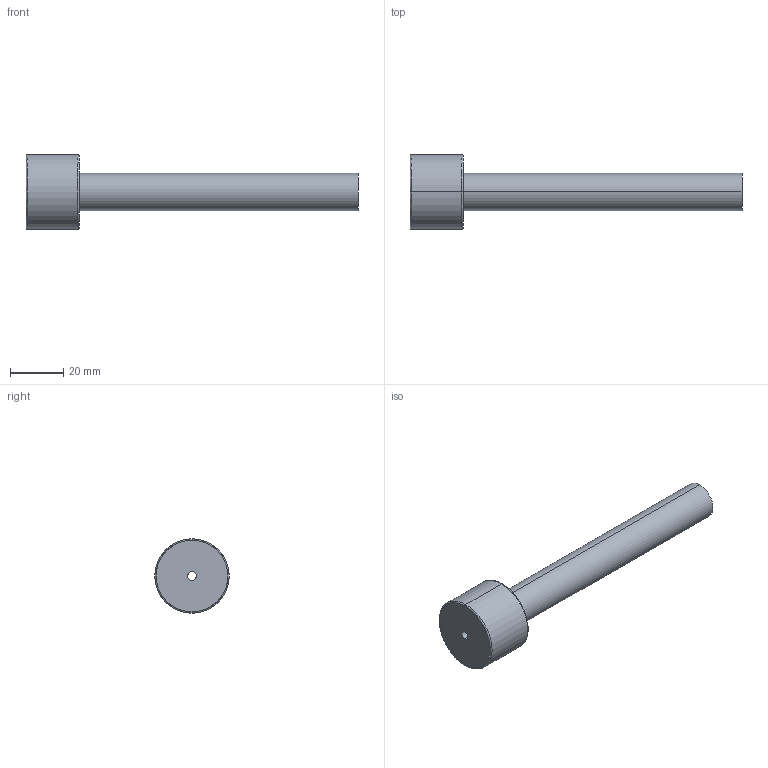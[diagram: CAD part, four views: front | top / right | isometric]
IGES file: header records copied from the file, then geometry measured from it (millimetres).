
Start section: START RECORD GO HERE.
Global section: file name: 367-14X125.igs; native system: DASSAULT SYSTEMES CATIA V5 R20 - www.3ds.com; preprocessor: CATIA Version 5 Release 20 ; author: Utente; organization: NB04-ASUS; date: 20210324.161048; units: millimetre
Bounding box: 125 x 28 x 28 mm (x, y, z)
Surface area: 10068.5 mm2 (no closed solid volume)
Topology: 0 solids, 0 shells, 13 faces, 84 edges, 84 vertices
Faces by surface type: revolution 10, plane 3
